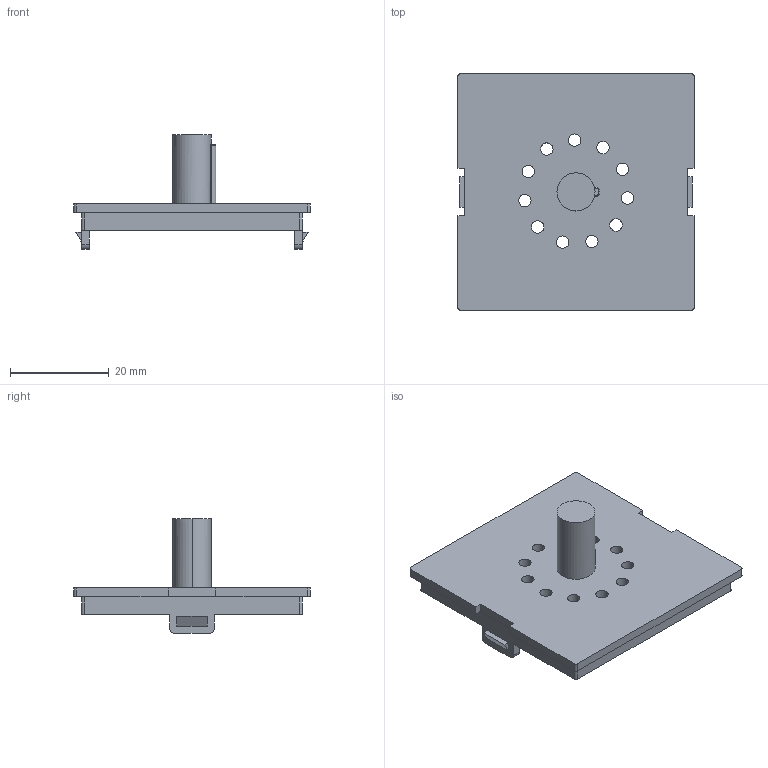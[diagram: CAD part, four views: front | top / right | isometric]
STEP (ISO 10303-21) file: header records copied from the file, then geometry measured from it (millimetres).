
FILE_DESCRIPTION (( 'STEP AP214' ), '1' );
FILE_NAME ('Tapa sense conectors PP50U.STEP', '2018-07-03T08:37:57', ( 'aaa' ), ( '' ), 'SwSTEP 2.0', 'SolidWorks 2013', '' );
FILE_SCHEMA (( 'AUTOMOTIVE_DESIGN' ));
Length unit declared in the file: millimetre
Products named in the file (1): Tapa sense conectors PP50U
Bounding box: 47.8 x 47.8 x 23.2 mm (x, y, z)
Volume: 6189.1 mm3; surface area: 7821.6 mm2
Topology: 1 solids, 1 shells, 156 faces, 405 edges, 269 vertices
Faces by surface type: cylinder 97, plane 57, torus 2
Entity records: 4946 total; most frequent: DIRECTION 914, CARTESIAN_POINT 841, ORIENTED_EDGE 810, EDGE_CURVE 405, AXIS2_PLACEMENT_3D 354, VERTEX_POINT 269, LINE 206, VECTOR 206
